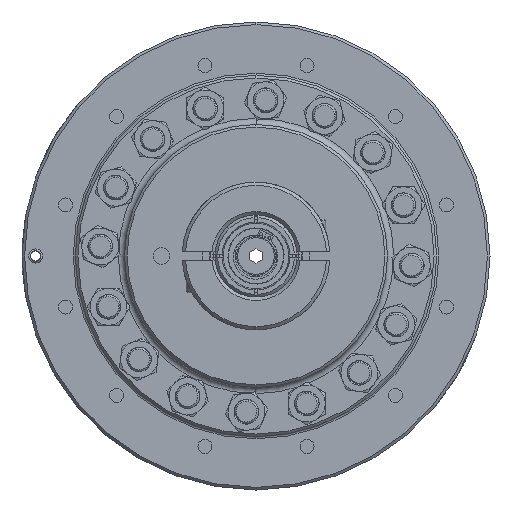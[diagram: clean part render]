
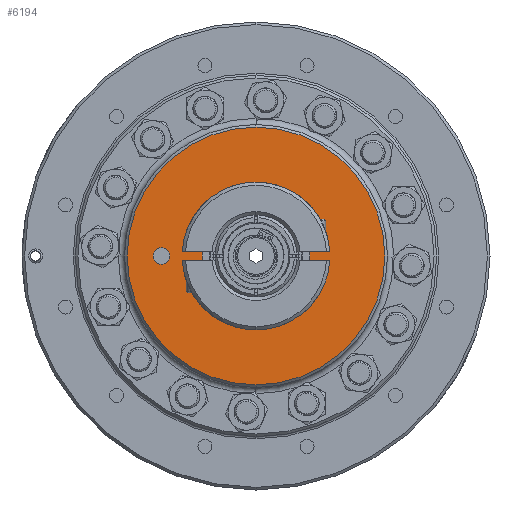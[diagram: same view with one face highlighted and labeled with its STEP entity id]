
A CAD part, left-side view. The second image highlights one B-rep face of the part: STEP entity #6194.
In plain terms, the highlighted planar face has unit normal (-1, 0, 0).
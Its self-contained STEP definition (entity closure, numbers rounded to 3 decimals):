
#2342 = CARTESIAN_POINT ( 'NONE',  ( 0., 0., -20.759 ) ) ;
#2693 = DIRECTION ( 'NONE',  ( -1., 0., 0. ) ) ;
#3260 = AXIS2_PLACEMENT_3D ( 'NONE', #40312, #36295, #39616 ) ;
#4581 = CARTESIAN_POINT ( 'NONE',  ( 0., 36.576, 3.175 ) ) ;
#5332 = FACE_BOUND ( 'NONE', #21820, .T. ) ;
#5697 = DIRECTION ( 'NONE',  ( 0., 0., 1. ) ) ;
#6194 = ADVANCED_FACE ( 'NONE', ( #37888, #5332, #19835 ), #34331, .F. ) ;
#7209 = EDGE_CURVE ( 'NONE', #26807, #18292, #18743, .T. ) ;
#7649 = CARTESIAN_POINT ( 'NONE',  ( 0., 36.576, 0. ) ) ;
#8536 = CIRCLE ( 'NONE', #3260, 3.175 ) ;
#8604 = EDGE_CURVE ( 'NONE', #18292, #26807, #32582, .T. ) ;
#8700 = CARTESIAN_POINT ( 'NONE',  ( 0., 0., 0. ) ) ;
#10330 = AXIS2_PLACEMENT_3D ( 'NONE', #8700, #15113, #23199 ) ;
#11756 = VERTEX_POINT ( 'NONE', #43130 ) ;
#12622 = AXIS2_PLACEMENT_3D ( 'NONE', #24332, #28121, #21235 ) ;
#12716 = EDGE_CURVE ( 'NONE', #36397, #27202, #14400, .T. ) ;
#13026 = CARTESIAN_POINT ( 'NONE',  ( 0., 0., 0. ) ) ;
#13440 = VERTEX_POINT ( 'NONE', #29048 ) ;
#14245 = DIRECTION ( 'NONE',  ( -1., 0., 0. ) ) ;
#14400 = CIRCLE ( 'NONE', #40967, 3.175 ) ;
#14529 = DIRECTION ( 'NONE',  ( 0., 0., 1. ) ) ;
#15113 = DIRECTION ( 'NONE',  ( -1., 0., 0. ) ) ;
#15149 = EDGE_CURVE ( 'NONE', #27202, #36397, #8536, .T. ) ;
#17814 = CARTESIAN_POINT ( 'NONE',  ( 0., 0., 0. ) ) ;
#18292 = VERTEX_POINT ( 'NONE', #44444 ) ;
#18581 = EDGE_CURVE ( 'NONE', #13440, #11756, #29352, .T. ) ;
#18743 = CIRCLE ( 'NONE', #25613, 20.759 ) ;
#19835 = FACE_OUTER_BOUND ( 'NONE', #28240, .T. ) ;
#20062 = CARTESIAN_POINT ( 'NONE',  ( 0., 0., 0. ) ) ;
#21235 = DIRECTION ( 'NONE',  ( 0., 0., -1. ) ) ;
#21820 = EDGE_LOOP ( 'NONE', ( #22573, #30036 ) ) ;
#22573 = ORIENTED_EDGE ( 'NONE', *, *, #8604, .F. ) ;
#22592 = ORIENTED_EDGE ( 'NONE', *, *, #12716, .F. ) ;
#22619 = ORIENTED_EDGE ( 'NONE', *, *, #37863, .T. ) ;
#23199 = DIRECTION ( 'NONE',  ( 0., 0., 1. ) ) ;
#23609 = AXIS2_PLACEMENT_3D ( 'NONE', #17814, #14245, #28764 ) ;
#24332 = CARTESIAN_POINT ( 'NONE',  ( 0., 49.784, 0. ) ) ;
#25613 = AXIS2_PLACEMENT_3D ( 'NONE', #20062, #2693, #38117 ) ;
#26807 = VERTEX_POINT ( 'NONE', #2342 ) ;
#27202 = VERTEX_POINT ( 'NONE', #46690 ) ;
#28121 = DIRECTION ( 'NONE',  ( 1., 0., 0. ) ) ;
#28240 = EDGE_LOOP ( 'NONE', ( #22619, #40572 ) ) ;
#28760 = AXIS2_PLACEMENT_3D ( 'NONE', #13026, #45408, #5697 ) ;
#28764 = DIRECTION ( 'NONE',  ( 0., 0., 1. ) ) ;
#29048 = CARTESIAN_POINT ( 'NONE',  ( 0., 0., 49.784 ) ) ;
#29352 = CIRCLE ( 'NONE', #10330, 49.784 ) ;
#30036 = ORIENTED_EDGE ( 'NONE', *, *, #7209, .F. ) ;
#32582 = CIRCLE ( 'NONE', #28760, 20.759 ) ;
#32743 = CIRCLE ( 'NONE', #23609, 49.784 ) ;
#34331 = PLANE ( 'NONE',  #12622 ) ;
#36295 = DIRECTION ( 'NONE',  ( -1., 0., 0. ) ) ;
#36397 = VERTEX_POINT ( 'NONE', #4581 ) ;
#37863 = EDGE_CURVE ( 'NONE', #11756, #13440, #32743, .T. ) ;
#37888 = FACE_BOUND ( 'NONE', #42194, .T. ) ;
#38117 = DIRECTION ( 'NONE',  ( 0., 0., 1. ) ) ;
#38901 = ORIENTED_EDGE ( 'NONE', *, *, #15149, .F. ) ;
#39616 = DIRECTION ( 'NONE',  ( 0., 0., 1. ) ) ;
#39987 = DIRECTION ( 'NONE',  ( -1., 0., 0. ) ) ;
#40312 = CARTESIAN_POINT ( 'NONE',  ( 0., 36.576, 0. ) ) ;
#40572 = ORIENTED_EDGE ( 'NONE', *, *, #18581, .T. ) ;
#40967 = AXIS2_PLACEMENT_3D ( 'NONE', #7649, #39987, #14529 ) ;
#42194 = EDGE_LOOP ( 'NONE', ( #22592, #38901 ) ) ;
#43130 = CARTESIAN_POINT ( 'NONE',  ( 0., 0., -49.784 ) ) ;
#44444 = CARTESIAN_POINT ( 'NONE',  ( 0., 0., 20.759 ) ) ;
#45408 = DIRECTION ( 'NONE',  ( -1., 0., 0. ) ) ;
#46690 = CARTESIAN_POINT ( 'NONE',  ( 0., 36.576, -3.175 ) ) ;
